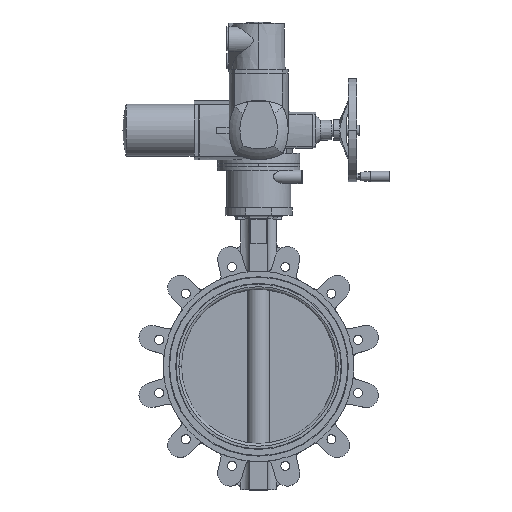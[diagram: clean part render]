
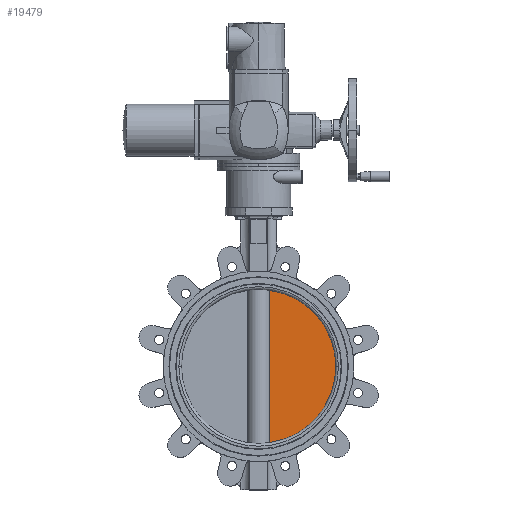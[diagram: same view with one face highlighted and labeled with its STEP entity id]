
A CAD part, top view. The second image highlights one B-rep face of the part: STEP entity #19479.
In plain terms, the highlighted planar face has unit normal (0, 0, 1).
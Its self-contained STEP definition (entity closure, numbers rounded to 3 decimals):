
#381 = DIRECTION ( 'NONE',  ( 0., 0., -1. ) ) ;
#427 = CIRCLE ( 'NONE', #31602, 150. ) ;
#545 = CARTESIAN_POINT ( 'NONE',  ( 21.166, 148.499, 6. ) ) ;
#1246 = PLANE ( 'NONE',  #1710 ) ;
#1710 = AXIS2_PLACEMENT_3D ( 'NONE', #5446, #25961, #23526 ) ;
#2025 = DIRECTION ( 'NONE',  ( -1., 0., 0. ) ) ;
#2178 = DIRECTION ( 'NONE',  ( 0., -1., 0. ) ) ;
#3355 = FACE_OUTER_BOUND ( 'NONE', #10668, .T. ) ;
#4448 = CARTESIAN_POINT ( 'NONE',  ( 0., 0., 6. ) ) ;
#4622 = ORIENTED_EDGE ( 'NONE', *, *, #27186, .T. ) ;
#5446 = CARTESIAN_POINT ( 'NONE',  ( 21.166, 338.001, 6. ) ) ;
#5917 = ORIENTED_EDGE ( 'NONE', *, *, #15201, .F. ) ;
#9097 = EDGE_CURVE ( 'NONE', #21324, #25927, #18383, .T. ) ;
#9970 = CARTESIAN_POINT ( 'NONE',  ( 150., 0., 6. ) ) ;
#10668 = EDGE_LOOP ( 'NONE', ( #5917, #4622, #31579 ) ) ;
#15201 = EDGE_CURVE ( 'NONE', #15245, #21324, #427, .T. ) ;
#15245 = VERTEX_POINT ( 'NONE', #545 ) ;
#16114 = VECTOR ( 'NONE', #2178, 1000. ) ;
#17598 = CARTESIAN_POINT ( 'NONE',  ( 0., 0., 6. ) ) ;
#18383 = CIRCLE ( 'NONE', #28220, 150. ) ;
#19479 = ADVANCED_FACE ( 'NONE', ( #3355 ), #1246, .F. ) ;
#21324 = VERTEX_POINT ( 'NONE', #9970 ) ;
#22068 = CARTESIAN_POINT ( 'NONE',  ( 21.166, -148.499, 6. ) ) ;
#23526 = DIRECTION ( 'NONE',  ( -1., 0., 0. ) ) ;
#24315 = DIRECTION ( 'NONE',  ( 0., 0., -1. ) ) ;
#24926 = DIRECTION ( 'NONE',  ( -1., 0., 0. ) ) ;
#25927 = VERTEX_POINT ( 'NONE', #22068 ) ;
#25961 = DIRECTION ( 'NONE',  ( 0., 0., -1. ) ) ;
#26724 = LINE ( 'NONE', #29173, #16114 ) ;
#27186 = EDGE_CURVE ( 'NONE', #15245, #25927, #26724, .T. ) ;
#28220 = AXIS2_PLACEMENT_3D ( 'NONE', #17598, #381, #24926 ) ;
#29173 = CARTESIAN_POINT ( 'NONE',  ( 21.166, 338.001, 6. ) ) ;
#31579 = ORIENTED_EDGE ( 'NONE', *, *, #9097, .F. ) ;
#31602 = AXIS2_PLACEMENT_3D ( 'NONE', #4448, #24315, #2025 ) ;
